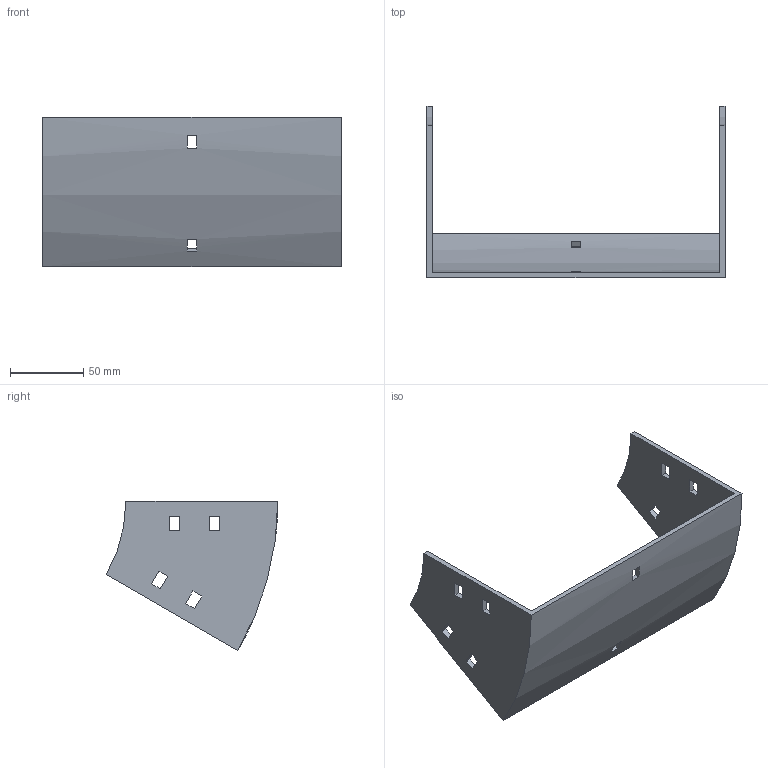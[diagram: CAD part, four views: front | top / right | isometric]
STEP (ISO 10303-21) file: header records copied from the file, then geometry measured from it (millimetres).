
FILE_DESCRIPTION (( 'STEP AP214' ), '1' );
FILE_NAME ('32B1D200.step', '2025-02-21T09:42:31', ( '' ), ( '' ), 'SwSTEP 2.0', 'SolidWorks 2023', '' );
FILE_SCHEMA (( 'AUTOMOTIVE_DESIGN' ));
Length unit declared in the file: millimetre
Products named in the file (1): 32B1D200
Bounding box: 204 x 117.4 x 102 mm (x, y, z)
Volume: 128585 mm3; surface area: 77854.8 mm2
Topology: 1 solids, 1 shells, 50 faces, 144 edges, 96 vertices
Faces by surface type: plane 46, cylinder 4
Entity records: 1687 total; most frequent: CARTESIAN_POINT 291, ORIENTED_EDGE 288, DIRECTION 262, EDGE_CURVE 144, VECTOR 128, LINE 128, VERTEX_POINT 96, EDGE_LOOP 70
